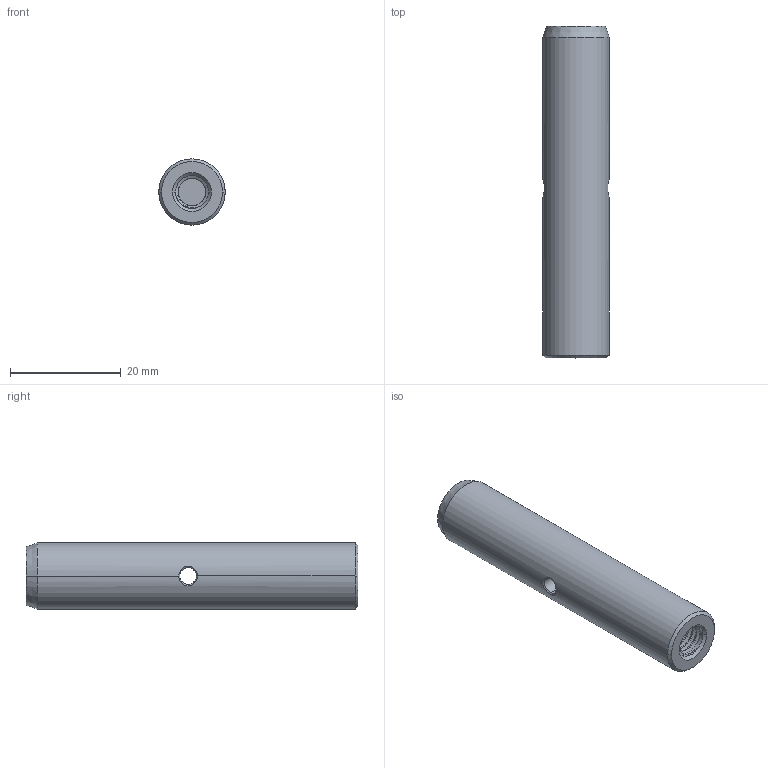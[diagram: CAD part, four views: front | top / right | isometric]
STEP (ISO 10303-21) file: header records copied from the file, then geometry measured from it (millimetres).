
FILE_DESCRIPTION((''),'2;1');
FILE_NAME('PCA6-S','2020-10-27T',('Administrator'),(''),'CREO PARAMETRIC BY PTC INC, 2015290','CREO PARAMETRIC BY PTC INC, 2015290','');
FILE_SCHEMA(('CONFIG_CONTROL_DESIGN'));
Length unit declared in the file: millimetre
Products named in the file (1): PCA6-S
Bounding box: 12 x 60 x 12 mm (x, y, z)
Volume: 6227.9 mm3; surface area: 3064.8 mm2
Topology: 1 solids, 1 shells, 127 faces, 333 edges, 208 vertices
Faces by surface type: cylinder 66, bspline 49, cone 8, plane 4
Entity records: 11522 total; most frequent: CARTESIAN_POINT 8877, ORIENTED_EDGE 666, EDGE_CURVE 333, DIRECTION 323, VERTEX_POINT 208, B_SPLINE_CURVE_WITH_KNOTS 187, EDGE_LOOP 129, FACE_OUTER_BOUND 127
